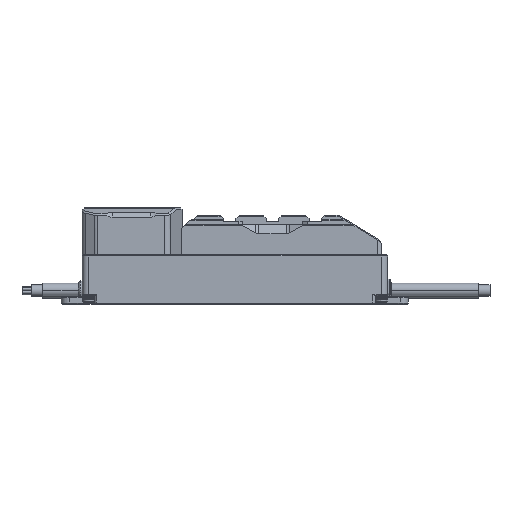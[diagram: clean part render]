
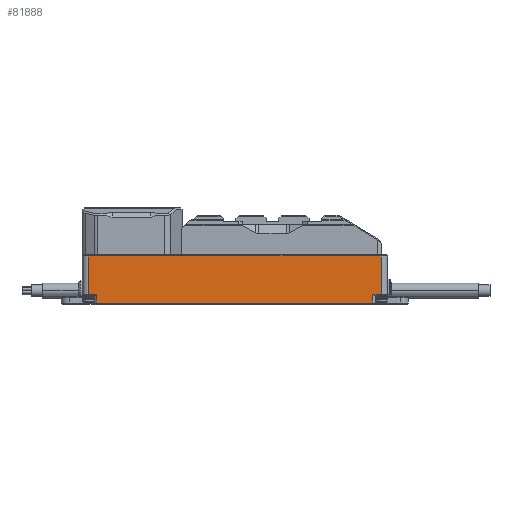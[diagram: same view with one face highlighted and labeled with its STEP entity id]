
A CAD part, front view. The second image highlights one B-rep face of the part: STEP entity #81888.
In plain terms, the highlighted planar face has unit normal (0, -1, 0).
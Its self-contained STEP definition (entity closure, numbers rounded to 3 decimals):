
#7276=DIRECTION('',(0.,0.,-1.));
#7277=VECTOR('',#7276,18.5);
#7278=CARTESIAN_POINT('',(-68.,-35.,
7.));
#7279=LINE('',#7278,#7277);
#7306=DIRECTION('',(1.,0.,0.));
#7307=VECTOR('',#7306,4.);
#7308=CARTESIAN_POINT('',(68.,-35.,-11.5));
#7309=LINE('',#7308,#7307);
#7313=DIRECTION('',(-1.,0.,0.));
#7314=VECTOR('',#7313,132.);
#7315=CARTESIAN_POINT('',(68.,-35.,
-15.5));
#7316=LINE('',#7315,#7314);
#7320=DIRECTION('',(-1.,0.,0.));
#7321=VECTOR('',#7320,4.);
#7322=CARTESIAN_POINT('',(-64.,-35.,-11.5));
#7323=LINE('',#7322,#7321);
#7327=DIRECTION('',(1.,0.,0.));
#7328=VECTOR('',#7327,140.);
#7329=CARTESIAN_POINT('',(-68.,-35.,
7.));
#7330=LINE('',#7329,#7328);
#7349=DIRECTION('',(0.,0.,1.));
#7350=VECTOR('',#7349,18.5);
#7351=CARTESIAN_POINT('',(72.,-35.,
-11.5));
#7352=LINE('',#7351,#7350);
#59313=DIRECTION('',(0.,0.,-1.));
#59314=VECTOR('',#59313,4.);
#59315=CARTESIAN_POINT('',(-64.,-35.,-11.5));
#59316=LINE('',#59315,#59314);
#59415=DIRECTION('',(0.,0.,1.));
#59416=VECTOR('',#59415,4.);
#59417=CARTESIAN_POINT('',(68.,-35.,
-15.5));
#59418=LINE('',#59417,#59416);
#67849=CARTESIAN_POINT('',(72.,-35.,7.));
#67850=VERTEX_POINT('',#67849);
#67853=CARTESIAN_POINT('',(-68.,-35.,
7.));
#67854=VERTEX_POINT('',#67853);
#71260=CARTESIAN_POINT('',(68.,-35.,-15.5));
#71261=VERTEX_POINT('',#71260);
#71264=CARTESIAN_POINT('',(-64.,-35.,
-15.5));
#71265=VERTEX_POINT('',#71264);
#71354=CARTESIAN_POINT('',(72.,-35.,-11.5));
#71355=VERTEX_POINT('',#71354);
#71356=CARTESIAN_POINT('',(68.,-35.,-11.5));
#71357=VERTEX_POINT('',#71356);
#71362=CARTESIAN_POINT('',(-68.,-35.,-11.5));
#71363=VERTEX_POINT('',#71362);
#71364=CARTESIAN_POINT('',(-64.,-35.,-11.5));
#71365=VERTEX_POINT('',#71364);
#81866=CARTESIAN_POINT('',(-71.,-35.,-9.5));
#81867=DIRECTION('',(0.,-1.,0.));
#81868=DIRECTION('',(1.,0.,0.));
#81869=AXIS2_PLACEMENT_3D('',#81866,#81867,#81868);
#81870=PLANE('',#81869);
#81872=ORIENTED_EDGE('',*,*,#81871,.F.);
#81874=ORIENTED_EDGE('',*,*,#81873,.F.);
#81876=ORIENTED_EDGE('',*,*,#81875,.F.);
#81878=ORIENTED_EDGE('',*,*,#81877,.T.);
#81880=ORIENTED_EDGE('',*,*,#81879,.F.);
#81882=ORIENTED_EDGE('',*,*,#81881,.T.);
#81883=ORIENTED_EDGE('',*,*,#81856,.F.);
#81885=ORIENTED_EDGE('',*,*,#81884,.T.);
#81886=EDGE_LOOP('',(#81872,#81874,#81876,#81878,#81880,#81882,#81883,#81885));
#81887=FACE_OUTER_BOUND('',#81886,.F.);
#81856=EDGE_CURVE('',#67854,#71363,#7279,.T.);
#81871=EDGE_CURVE('',#71355,#67850,#7352,.T.);
#81873=EDGE_CURVE('',#71357,#71355,#7309,.T.);
#81875=EDGE_CURVE('',#71261,#71357,#59418,.T.);
#81877=EDGE_CURVE('',#71261,#71265,#7316,.T.);
#81879=EDGE_CURVE('',#71365,#71265,#59316,.T.);
#81881=EDGE_CURVE('',#71365,#71363,#7323,.T.);
#81884=EDGE_CURVE('',#67854,#67850,#7330,.T.);
#81888=ADVANCED_FACE('',(#81887),#81870,.T.);
